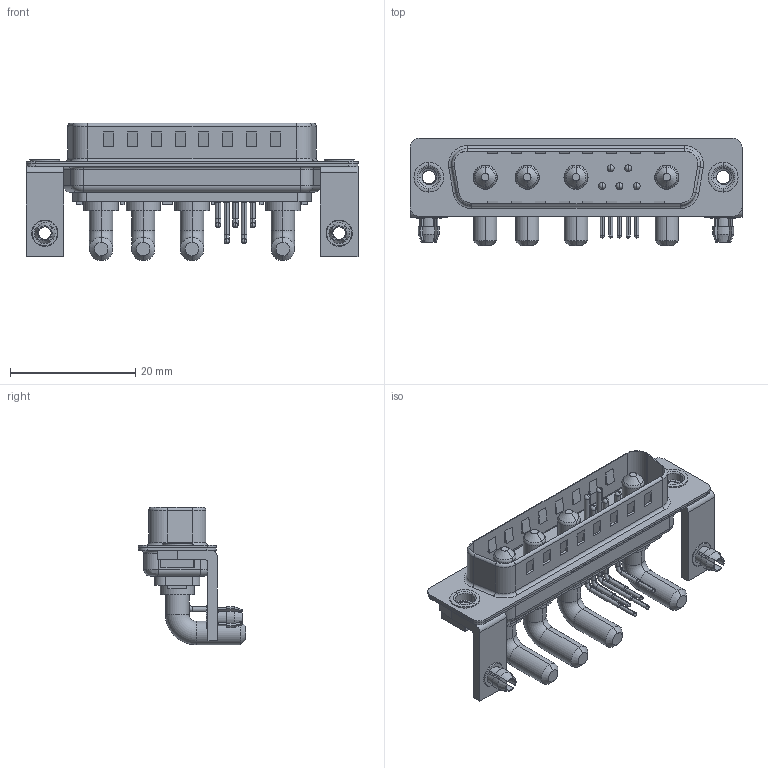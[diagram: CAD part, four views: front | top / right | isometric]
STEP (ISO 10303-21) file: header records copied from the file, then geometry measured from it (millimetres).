
FILE_DESCRIPTION (( 'STEP AP203' ), '1' );
FILE_NAME ('684M9W4103L461.STEP', '2023-04-18T17:32:52', ( '' ), ( '' ), 'SwSTEP 2.0', 'SolidWorks 2020', '' );
FILE_SCHEMA (( 'CONFIG_CONTROL_DESIGN' ));
Length unit declared in the file: millimetre
Products named in the file (1): 684M9W4103L461
Bounding box: 53.05 x 17.2 x 21.98 mm (x, y, z)
Volume: 4130 mm3; surface area: 9118.3 mm2
Topology: 23 solids, 23 shells, 1321 faces, 3356 edges, 2114 vertices
Faces by surface type: plane 663, cylinder 456, cone 84, torus 75, sphere 24, bspline 19
Entity records: 41683 total; most frequent: CARTESIAN_POINT 9259, DIRECTION 6894, ORIENTED_EDGE 6616, EDGE_CURVE 3308, AXIS2_PLACEMENT_3D 2394, LINE 2106, VECTOR 2106, VERTEX_POINT 2090
